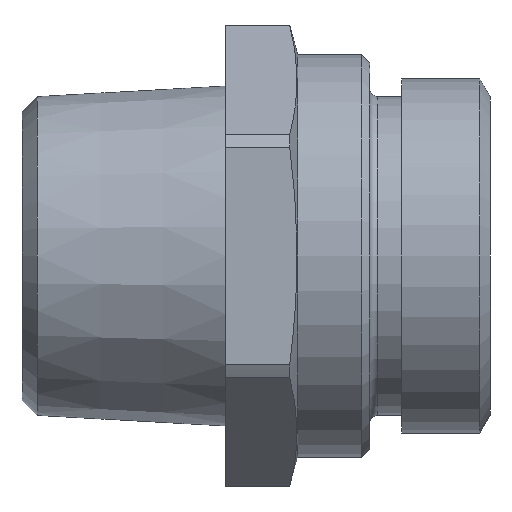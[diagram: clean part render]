
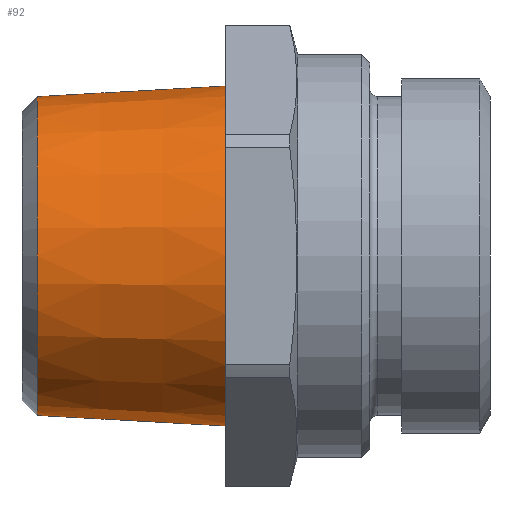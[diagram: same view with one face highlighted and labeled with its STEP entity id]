
A CAD part, left-side view. The second image highlights one B-rep face of the part: STEP entity #92.
In plain terms, the highlighted conical face has half-angle 3.21 degrees and reference radius 10.603 mm.
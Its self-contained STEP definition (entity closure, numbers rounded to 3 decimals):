
#92 = ADVANCED_FACE ( 'NONE', ( #1921, #229 ), #1559, .T. ) ;
#229 = FACE_OUTER_BOUND ( 'NONE', #408, .T. ) ;
#251 = EDGE_LOOP ( 'NONE', ( #1618 ) ) ;
#310 = DIRECTION ( 'NONE',  ( 0., 0., 1. ) ) ;
#328 = DIRECTION ( 'NONE',  ( 0., -1., 0. ) ) ;
#408 = EDGE_LOOP ( 'NONE', ( #1697 ) ) ;
#469 = EDGE_CURVE ( 'NONE', #563, #563, #1437, .T. ) ;
#563 = VERTEX_POINT ( 'NONE', #1928 ) ;
#810 = AXIS2_PLACEMENT_3D ( 'NONE', #1399, #1917, #1911 ) ;
#1018 = CARTESIAN_POINT ( 'NONE',  ( -32.345, 30.17, 18.677 ) ) ;
#1069 = DIRECTION ( 'NONE',  ( 0., 0., -1. ) ) ;
#1237 = AXIS2_PLACEMENT_3D ( 'NONE', #1018, #328, #1069 ) ;
#1295 = CARTESIAN_POINT ( 'NONE',  ( -32.345, 41.926, 28.621 ) ) ;
#1370 = DIRECTION ( 'NONE',  ( 0., 1., 0. ) ) ;
#1399 = CARTESIAN_POINT ( 'NONE',  ( -32.345, 30.17, 18.677 ) ) ;
#1437 = CIRCLE ( 'NONE', #810, 10.603 ) ;
#1559 = CONICAL_SURFACE ( 'NONE', #1237, 10.603, 0.056 ) ;
#1564 = CARTESIAN_POINT ( 'NONE',  ( -32.345, 41.926, 18.677 ) ) ;
#1618 = ORIENTED_EDGE ( 'NONE', *, *, #2109, .F. ) ;
#1697 = ORIENTED_EDGE ( 'NONE', *, *, #469, .T. ) ;
#1899 = AXIS2_PLACEMENT_3D ( 'NONE', #1564, #1370, #310 ) ;
#1911 = DIRECTION ( 'NONE',  ( 0., 0., 1. ) ) ;
#1917 = DIRECTION ( 'NONE',  ( 0., 1., 0. ) ) ;
#1921 = FACE_BOUND ( 'NONE', #251, .T. ) ;
#1928 = CARTESIAN_POINT ( 'NONE',  ( -32.345, 30.17, 29.28 ) ) ;
#2072 = CIRCLE ( 'NONE', #1899, 9.944 ) ;
#2109 = EDGE_CURVE ( 'NONE', #2213, #2213, #2072, .T. ) ;
#2213 = VERTEX_POINT ( 'NONE', #1295 ) ;
